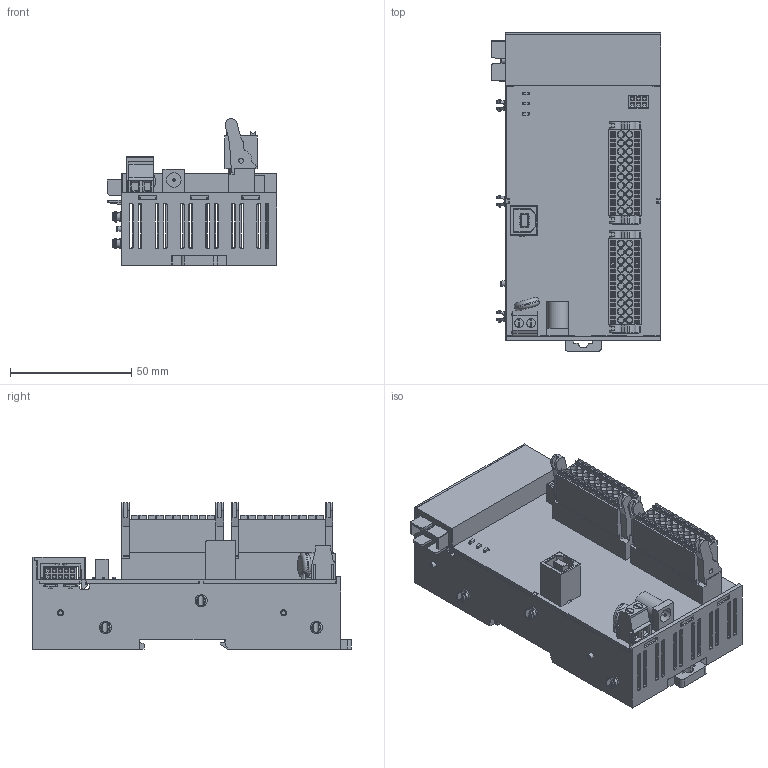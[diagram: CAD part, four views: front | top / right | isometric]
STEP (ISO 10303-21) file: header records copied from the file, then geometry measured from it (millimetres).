
FILE_DESCRIPTION (( 'STEP AP214' ), '1' );
FILE_NAME ('CFMEGA2_forstep.STEP', '2024-08-08T10:23:37', ( '' ), ( '' ), 'SwSTEP 2.0', 'SolidWorks 2020', '' );
FILE_SCHEMA (( 'AUTOMOTIVE_DESIGN' ));
Length unit declared in the file: millimetre
Products named in the file (1): CFMEGA2_forstep
Bounding box: 70 x 131.42 x 60.38 mm (x, y, z)
Volume: 80558.6 mm3; surface area: 78777 mm2
Topology: 1 solids, 63 shells, 2782 faces, 7284 edges, 4777 vertices
Faces by surface type: plane 2062, cylinder 513, cone 165, torus 34, bspline 8
Full cylindrical faces by diameter (mm): 0.5 x26, 1 x3, 1.5 x4, 1.6 x2, 2 x9, 3.6 x2, 4.6 x3, 6 x2, 9 x1, 10.5 x1
Entity records: 84491 total; most frequent: CARTESIAN_POINT 16191, ORIENTED_EDGE 14226, DIRECTION 13627, EDGE_CURVE 7113, LINE 5607, VECTOR 5607, VERTEX_POINT 4725, AXIS2_PLACEMENT_3D 4010
